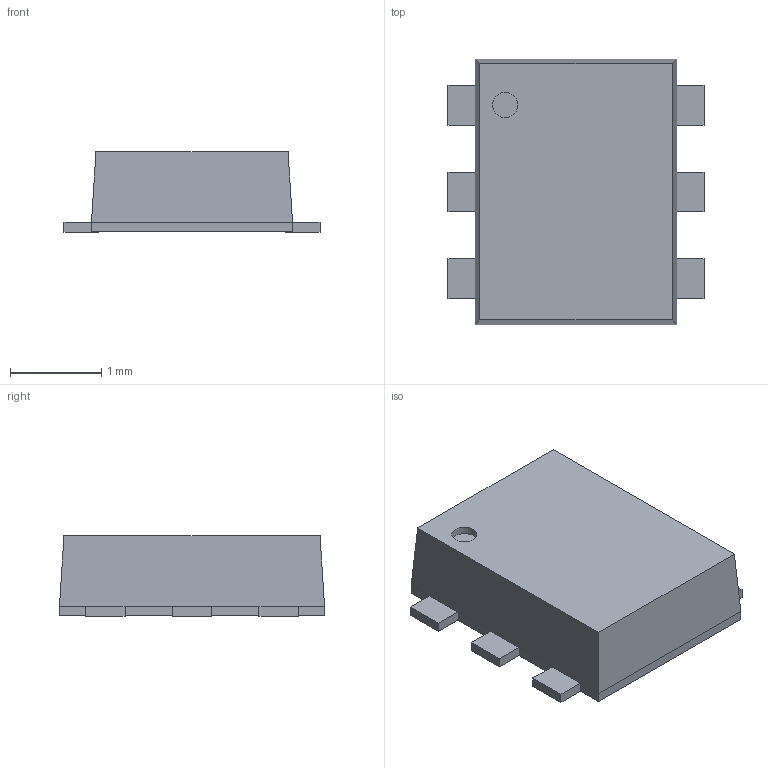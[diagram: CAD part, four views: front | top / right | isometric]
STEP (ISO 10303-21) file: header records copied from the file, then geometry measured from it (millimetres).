
FILE_DESCRIPTION(('FreeCAD Model'),'2;1');
FILE_NAME('/var/www/3D/0T/13186744.1.1.stp','2020-10-18T07:59:00',( 'Author'),(''),'Open CASCADE STEP processor 6.9','FreeCAD','Unknown' );
FILE_SCHEMA(('AUTOMOTIVE_DESIGN { 1 0 10303 214 1 1 1 1 }'));
Length unit declared in the file: millimetre
Products named in the file (4): ASSEMBLY; Body; PinsArrayL; PinsArrayR
Assembly tree (3 placements, depth 2):
  ASSEMBLY
    Body
    PinsArrayL
    PinsArrayR
Bounding box: 2.8 x 2.9 x 0.88 mm (x, y, z)
Volume: 5.5 mm3; surface area: 24.2 mm2
Topology: 7 solids, 7 shells, 48 faces, 95 edges, 62 vertices
Faces by surface type: plane 47, cylinder 1
Full cylindrical faces by diameter (mm): 0.275 x1
Entity records: 2564 total; most frequent: CARTESIAN_POINT 399, DIRECTION 391, LINE 281, VECTOR 281, ORIENTED_EDGE 190, PCURVE 190, DEFINITIONAL_REPRESENTATION 190, EDGE_CURVE 95
